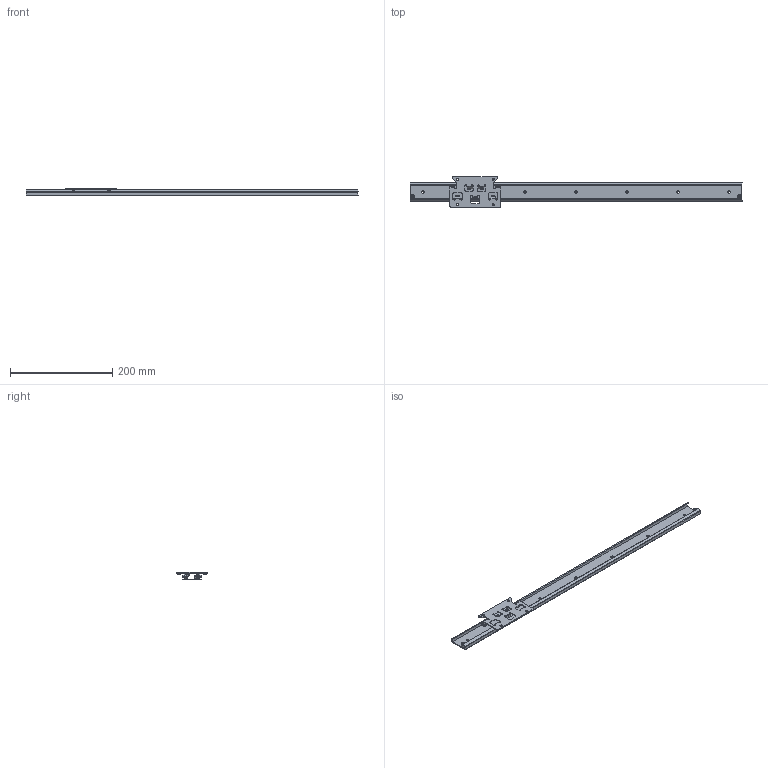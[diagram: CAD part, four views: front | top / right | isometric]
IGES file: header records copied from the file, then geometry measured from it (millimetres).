
Global section: native system: Kubotek KeyCreator; preprocessor: KCM Version 1.1.1442.0; author: KeyCreator User; organization: Self; date: 20181022.105146; units: millimetre
Bounding box: 650 x 60 x 14.8 mm (x, y, z)
Surface area: 95219.3 mm2 (no closed solid volume)
Topology: 0 solids, 0 shells, 919 faces, 6103 edges, 6104 vertices
Faces by surface type: bspline 919
